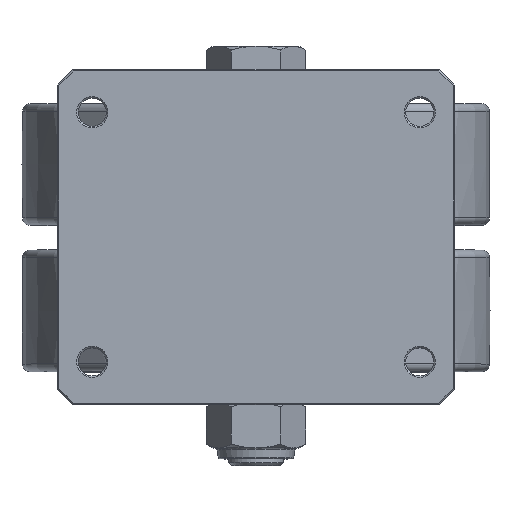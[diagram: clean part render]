
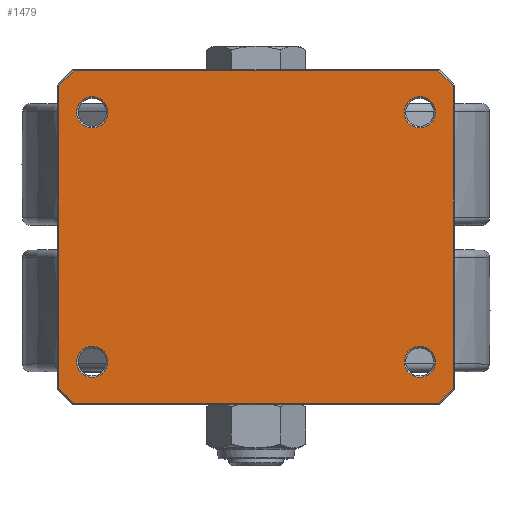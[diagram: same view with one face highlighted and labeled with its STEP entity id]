
A CAD part, top view. The second image highlights one B-rep face of the part: STEP entity #1479.
In plain terms, the highlighted planar face has unit normal (0, 0, 1).
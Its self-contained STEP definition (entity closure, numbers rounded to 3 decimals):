
#1364=CARTESIAN_POINT('',(-153.04,275.818,8.));
#1365=DIRECTION('',(0.0,0.0,1.0));
#1366=DIRECTION('',(1.0,0.0,0.0));
#1367=AXIS2_PLACEMENT_3D('',#1364,#1365,#1366);
#1368=PLANE('',#1367);
#1369=CARTESIAN_POINT('',(-26.54,178.732,8.));
#1370=VERTEX_POINT('',#1369);
#1371=CARTESIAN_POINT('',(-35.954,169.318,8.));
#1372=VERTEX_POINT('',#1371);
#1373=CARTESIAN_POINT('',(-26.54,178.732,8.));
#1374=DIRECTION('',(-0.707,-0.707,0.0));
#1375=VECTOR('',#1374,13.314);
#1376=LINE('',#1373,#1375);
#1377=EDGE_CURVE('',#1370,#1372,#1376,.T.);
#1378=ORIENTED_EDGE('',*,*,#1377,.F.);
#1379=CARTESIAN_POINT('',(-26.54,372.904,8.));
#1380=VERTEX_POINT('',#1379);
#1381=CARTESIAN_POINT('',(-26.54,372.904,8.));
#1382=DIRECTION('',(0.0,-1.0,0.0));
#1383=VECTOR('',#1382,194.172);
#1384=LINE('',#1381,#1383);
#1385=EDGE_CURVE('',#1380,#1370,#1384,.T.);
#1386=ORIENTED_EDGE('',*,*,#1385,.F.);
#1387=CARTESIAN_POINT('',(-35.954,382.318,8.));
#1388=VERTEX_POINT('',#1387);
#1389=CARTESIAN_POINT('',(-35.954,382.318,8.));
#1390=DIRECTION('',(0.707,-0.707,0.0));
#1391=VECTOR('',#1390,13.314);
#1392=LINE('',#1389,#1391);
#1393=EDGE_CURVE('',#1388,#1380,#1392,.T.);
#1394=ORIENTED_EDGE('',*,*,#1393,.F.);
#1395=CARTESIAN_POINT('',(-270.126,382.318,8.));
#1396=VERTEX_POINT('',#1395);
#1397=CARTESIAN_POINT('',(-270.126,382.318,8.));
#1398=DIRECTION('',(1.0,0.0,0.0));
#1399=VECTOR('',#1398,234.172);
#1400=LINE('',#1397,#1399);
#1401=EDGE_CURVE('',#1396,#1388,#1400,.T.);
#1402=ORIENTED_EDGE('',*,*,#1401,.F.);
#1403=CARTESIAN_POINT('',(-279.54,372.904,8.));
#1404=VERTEX_POINT('',#1403);
#1405=CARTESIAN_POINT('',(-279.54,372.904,8.));
#1406=DIRECTION('',(0.707,0.707,0.0));
#1407=VECTOR('',#1406,13.314);
#1408=LINE('',#1405,#1407);
#1409=EDGE_CURVE('',#1404,#1396,#1408,.T.);
#1410=ORIENTED_EDGE('',*,*,#1409,.F.);
#1411=CARTESIAN_POINT('',(-279.54,178.732,8.));
#1412=VERTEX_POINT('',#1411);
#1413=CARTESIAN_POINT('',(-279.54,178.732,8.));
#1414=DIRECTION('',(0.0,1.0,0.0));
#1415=VECTOR('',#1414,194.172);
#1416=LINE('',#1413,#1415);
#1417=EDGE_CURVE('',#1412,#1404,#1416,.T.);
#1418=ORIENTED_EDGE('',*,*,#1417,.F.);
#1419=CARTESIAN_POINT('',(-270.126,169.318,8.));
#1420=VERTEX_POINT('',#1419);
#1421=CARTESIAN_POINT('',(-270.126,169.318,8.));
#1422=DIRECTION('',(-0.707,0.707,0.0));
#1423=VECTOR('',#1422,13.314);
#1424=LINE('',#1421,#1423);
#1425=EDGE_CURVE('',#1420,#1412,#1424,.T.);
#1426=ORIENTED_EDGE('',*,*,#1425,.F.);
#1427=CARTESIAN_POINT('',(-35.954,169.318,8.));
#1428=DIRECTION('',(-1.0,0.0,0.0));
#1429=VECTOR('',#1428,234.172);
#1430=LINE('',#1427,#1429);
#1431=EDGE_CURVE('',#1372,#1420,#1430,.T.);
#1432=ORIENTED_EDGE('',*,*,#1431,.F.);
#1433=EDGE_LOOP('',(#1378,#1386,#1394,#1402,#1410,#1418,#1426,#1432));
#1434=FACE_OUTER_BOUND('',#1433,.T.);
#1435=CARTESIAN_POINT('',(-38.04,195.818,8.));
#1436=VERTEX_POINT('',#1435);
#1437=CARTESIAN_POINT('',(-48.04,195.818,8.));
#1438=DIRECTION('',(0.0,0.0,1.0));
#1439=DIRECTION('',(-1.0,0.0,0.0));
#1440=AXIS2_PLACEMENT_3D('',#1437,#1438,#1439);
#1441=CIRCLE('',#1440,10.0);
#1442=EDGE_CURVE('',#1436,#1436,#1441,.T.);
#1443=ORIENTED_EDGE('',*,*,#1442,.F.);
#1444=EDGE_LOOP('',(#1443));
#1445=FACE_BOUND('',#1444,.T.);
#1446=CARTESIAN_POINT('',(-248.04,355.818,8.));
#1447=VERTEX_POINT('',#1446);
#1448=CARTESIAN_POINT('',(-258.04,355.818,8.));
#1449=DIRECTION('',(0.0,0.0,1.0));
#1450=DIRECTION('',(-1.0,0.0,0.0));
#1451=AXIS2_PLACEMENT_3D('',#1448,#1449,#1450);
#1452=CIRCLE('',#1451,10.0);
#1453=EDGE_CURVE('',#1447,#1447,#1452,.T.);
#1454=ORIENTED_EDGE('',*,*,#1453,.F.);
#1455=EDGE_LOOP('',(#1454));
#1456=FACE_BOUND('',#1455,.T.);
#1457=CARTESIAN_POINT('',(-248.04,195.818,8.));
#1458=VERTEX_POINT('',#1457);
#1459=CARTESIAN_POINT('',(-258.04,195.818,8.));
#1460=DIRECTION('',(0.0,0.0,1.0));
#1461=DIRECTION('',(-1.0,0.0,0.0));
#1462=AXIS2_PLACEMENT_3D('',#1459,#1460,#1461);
#1463=CIRCLE('',#1462,10.0);
#1464=EDGE_CURVE('',#1458,#1458,#1463,.T.);
#1465=ORIENTED_EDGE('',*,*,#1464,.F.);
#1466=EDGE_LOOP('',(#1465));
#1467=FACE_BOUND('',#1466,.T.);
#1468=CARTESIAN_POINT('',(-38.04,355.818,8.));
#1469=VERTEX_POINT('',#1468);
#1470=CARTESIAN_POINT('',(-48.04,355.818,8.));
#1471=DIRECTION('',(0.0,0.0,1.0));
#1472=DIRECTION('',(-1.0,0.0,0.0));
#1473=AXIS2_PLACEMENT_3D('',#1470,#1471,#1472);
#1474=CIRCLE('',#1473,10.0);
#1475=EDGE_CURVE('',#1469,#1469,#1474,.T.);
#1476=ORIENTED_EDGE('',*,*,#1475,.F.);
#1477=EDGE_LOOP('',(#1476));
#1478=FACE_BOUND('',#1477,.T.);
#1479=ADVANCED_FACE('',(#1434,#1445,#1456,#1467,#1478),#1368,.T.);
